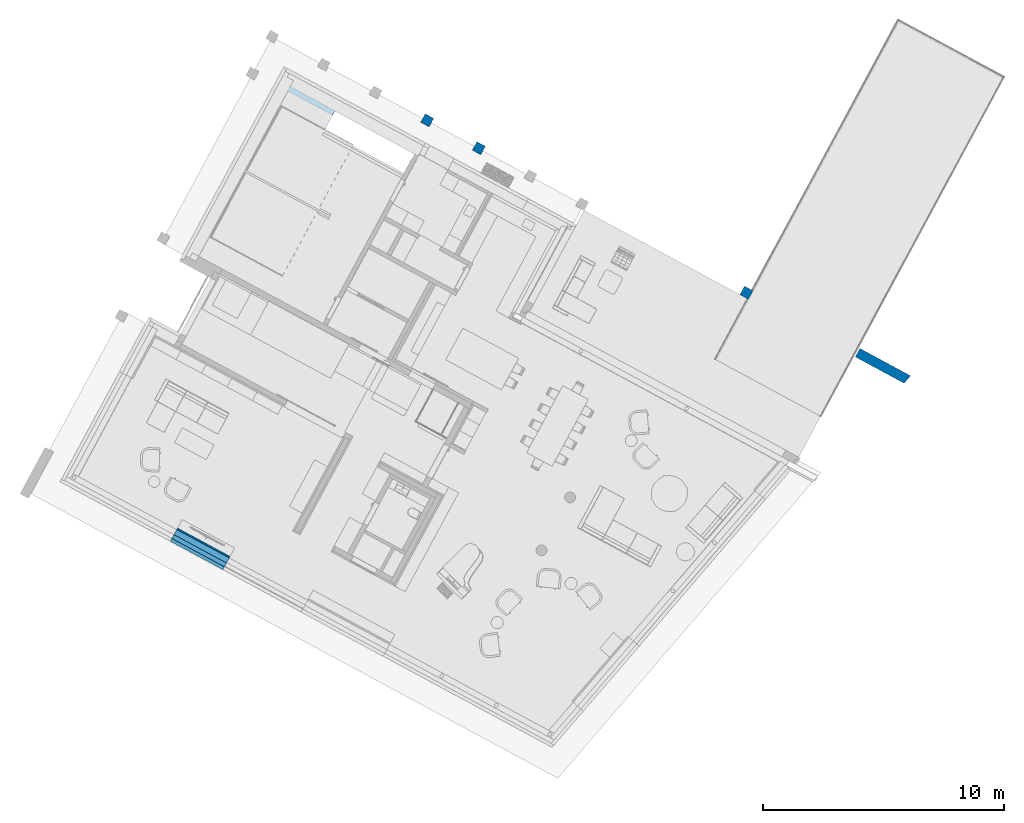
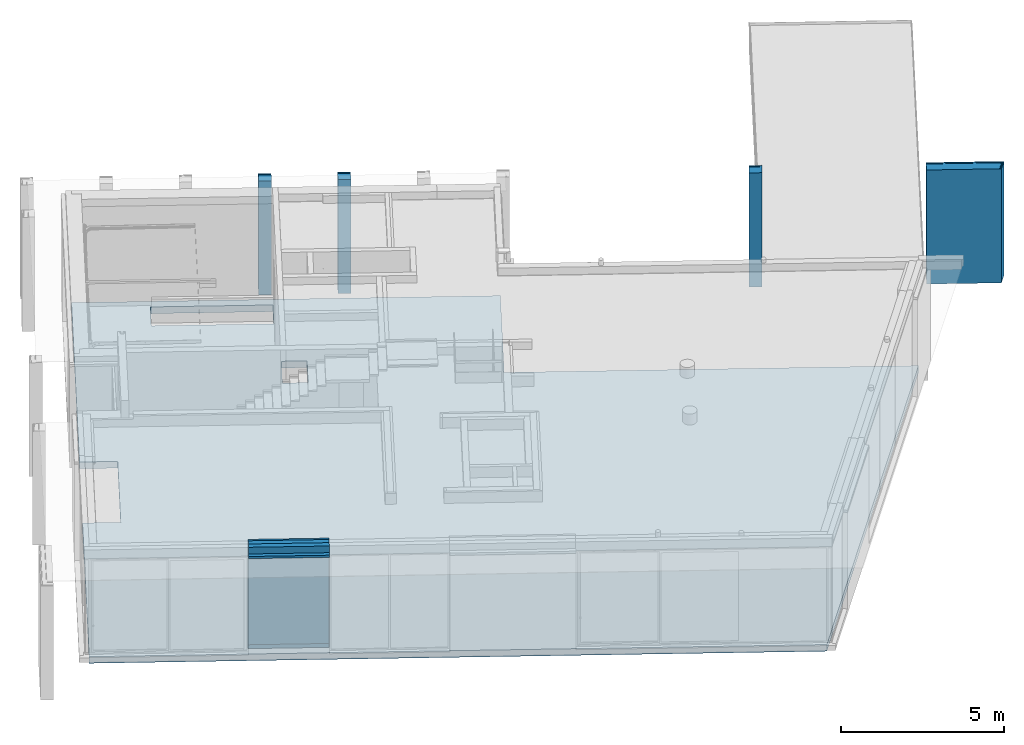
# One storey, part 2 of 52: 4 columns, 2 walls, 1 slab, 1 opening.
"""IFC2X3 building model written with IfcOpenShell, lengths in metres."""

from ifc_helpers import new_model, entity, si_unit, converted_unit, derived_unit, money_unit, direction, frame, origin_with_axes, place, context, subcontext, project, spatial, polyline, outline, extrude, faceted_brep, material, material_list, type_object, element, save


model = new_model("IFC2X3")

# Units and contexts
model_context = context("Model", 3, precision=1e-05, world=origin_with_axes(), true_north=direction((0.0, 1.0)))
body_context = subcontext(model_context, "Body", "Model", "MODEL_VIEW")
ifc_project = project(units=[si_unit("LENGTHUNIT", "METRE"), si_unit("AREAUNIT", "SQUARE_METRE"), si_unit("VOLUMEUNIT", "CUBIC_METRE"), converted_unit("PLANEANGLEUNIT", "DEGREE", entity("IfcPlaneAngleMeasure", 0.0174532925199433), si_unit("PLANEANGLEUNIT", "RADIAN"), dimensions=[0, 0, 0, 0, 0, 0, 0]), money_unit("EUR"), converted_unit("TIMEUNIT", "Year", entity("IfcTimeMeasure", 31556926.0), si_unit("TIMEUNIT", "SECOND"), dimensions=[0, 0, 1, 0, 0, 0, 0]), si_unit("MASSUNIT", "GRAM", prefix="KILO"), si_unit("THERMODYNAMICTEMPERATUREUNIT", "DEGREE_CELSIUS"), si_unit("LUMINOUSINTENSITYUNIT", "LUMEN"), si_unit("ENERGYUNIT", "JOULE", prefix="MEGA"), derived_unit("THERMALCONDUCTANCEUNIT", [(si_unit("POWERUNIT", "WATT"), 1), (si_unit("LENGTHUNIT", "METRE"), -1), (si_unit("THERMODYNAMICTEMPERATUREUNIT", "KELVIN"), -1)]), derived_unit("SPECIFICHEATCAPACITYUNIT", [(si_unit("ENERGYUNIT", "JOULE"), 1), (si_unit("MASSUNIT", "GRAM", prefix="KILO"), -1), (si_unit("THERMODYNAMICTEMPERATUREUNIT", "KELVIN"), -1)]), derived_unit("MASSDENSITYUNIT", [(si_unit("MASSUNIT", "GRAM", prefix="KILO"), 1), (si_unit("VOLUMEUNIT", "CUBIC_METRE"), -1)])], contexts=[model_context])

# Site, building, storey
site_placement = place(None, frame((-3.949935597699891, 1.740105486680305, 0.0), z_axis=(0.0, 0.0, 1.0), x_axis=(0.8799804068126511, -0.475009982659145, 0.0)))
site = spatial("IfcSite", under=ifc_project, at=site_placement, Name="Gelände", CompositionType="ELEMENT")
building_placement = place(site_placement, origin_with_axes())
building = spatial("IfcBuilding", under=site, at=building_placement, Name="Gebäude", CompositionType="ELEMENT")
storey_placement = place(building_placement, origin_with_axes())
storey = spatial("IfcBuildingStorey", under=building, at=storey_placement, Name="Erdgeschoss", CompositionType="ELEMENT", Elevation=0.0)

# Columns
ifc_material_1 = material(Name="_SIWH - Beton, Stahlbeton")
column_type_1 = type_object("IfcColumnType", Name="_SIWH - Beton, Stahlbeton 400 x 400", PredefinedType="NOTDEFINED")
column_1_placement = place(storey_placement, frame((10.15997864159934, 20.38528753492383, -0.699999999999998), z_axis=(0.0, 0.0, 1.0), x_axis=(1.0, 0.0, 0.0)))
element("IfcColumn", 1, at=column_1_placement, inside=storey, type_object=column_type_1, material=ifc_material_1, Name="Stütze-003", context=body_context, shape_type="Brep", body=[
    faceted_brep([(0.1999999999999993, 0.1449946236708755, 4.279999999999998), (0.1999999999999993, 0.1549946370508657, 4.279999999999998), (-0.1999999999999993, 0.1549946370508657, 4.279999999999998), (-0.1999999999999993, 0.1449946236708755, 4.279999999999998), (0.1999999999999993, 0.1899946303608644, 4.270000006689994), (0.1999999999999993, 0.1649946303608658, 4.270000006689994), (0.1999999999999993, 0.1349946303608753, 4.270000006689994), (0.1999999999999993, 0.009994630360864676, 4.270000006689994), (0.1999999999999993, -5.369639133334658e-06, 4.280000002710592), (0.1999999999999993, -0.1999999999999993, 4.279999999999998), (0.1999999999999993, -0.1999999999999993, 0.0), (0.1999999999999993, 0.1999999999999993, 0.0), (0.2000000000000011, 0.1999946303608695, 4.280000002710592), (-0.1999999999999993, 0.1649946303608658, 4.270000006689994), (-0.1999999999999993, 0.1899946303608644, 4.270000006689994), (-0.1999999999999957, 0.1999946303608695, 4.280000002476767), (-0.1999999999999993, 0.1999999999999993, 0.0), (-0.1999999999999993, -0.1999999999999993, 0.0), (-0.1999999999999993, -0.1999999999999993, 4.279999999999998), (-0.1999999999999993, -5.369639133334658e-06, 4.280000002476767), (-0.1999999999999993, 0.009994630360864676, 4.270000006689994), (-0.1999999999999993, 0.1349946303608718, 4.270000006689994)], [[[0, 1, 2, 3]], [[4, 5, 1, 0, 6, 7, 8, 9, 10, 11, 12]], [[2, 1, 5, 13]], [[13, 14, 15, 16, 17, 18, 19, 20, 21, 3, 2]], [[21, 6, 0, 3]], [[13, 5, 4, 14]], [[20, 7, 6, 21]], [[19, 8, 7, 20]], [[9, 8, 19, 18]], [[9, 18, 17, 10]], [[11, 10, 17, 16]], [[16, 15, 12, 11]], [[14, 4, 12, 15]]]),
])
column_2_placement = place(storey_placement, frame((25.24515309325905, 20.38528753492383, -0.699999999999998), z_axis=(0.0, 0.0, 1.0), x_axis=(1.0, 0.0, 0.0)))
element("IfcColumn", 2, at=column_2_placement, inside=storey, type_object=column_type_1, material=ifc_material_1, Name="Stütze-003", context=body_context, shape_type="Brep", body=[
    faceted_brep([(0.1999999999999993, 0.144994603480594, 4.279999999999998), (0.1999999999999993, 0.1549946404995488, 4.279999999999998), (-0.1999999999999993, 0.1549946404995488, 4.279999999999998), (-0.1999999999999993, 0.144994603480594, 4.279999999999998), (0.1999999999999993, 0.1899946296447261, 4.270000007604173), (0.1999999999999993, 0.1649946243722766, 4.270000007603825), (0.1999999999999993, 0.1349946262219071, 4.270000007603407), (0.1999999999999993, -0.1900053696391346, 4.270000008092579), (0.1999999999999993, -0.2000053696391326, 4.280000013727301), (0.1999999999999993, -0.1999999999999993, 0.0), (0.1999999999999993, 0.1999999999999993, 0.0), (0.1999999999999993, 0.1999946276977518, 4.280000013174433), (-0.1999999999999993, 0.1649946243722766, 4.27000000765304), (-0.1999999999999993, 0.1899946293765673, 4.270000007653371), (-0.1999999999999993, 0.1999946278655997, 4.280000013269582), (-0.1999999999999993, 0.1999999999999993, 0.0), (-0.1999999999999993, -0.1999999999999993, 0.0), (-0.1999999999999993, -0.2000053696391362, 4.280000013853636), (-0.1999999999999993, -0.1900053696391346, 4.270000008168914), (-0.1999999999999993, 0.1349946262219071, 4.270000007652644)], [[[0, 1, 2, 3]], [[4, 5, 1, 0, 6, 7, 8, 9, 10, 11]], [[2, 1, 5, 12]], [[12, 13, 14, 15, 16, 17, 18, 19, 3, 2]], [[19, 6, 0, 3]], [[12, 5, 4, 13]], [[18, 7, 6, 19]], [[17, 8, 7, 18]], [[9, 8, 17, 16]], [[10, 9, 16, 15]], [[15, 14, 11, 10]], [[13, 4, 11, 14]]]),
])
column_3_placement = place(storey_placement, frame((12.60081076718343, 20.38528753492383, -0.699999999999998), z_axis=(0.0, 0.0, 1.0), x_axis=(1.0, 0.0, 0.0)))
element("IfcColumn", 3, at=column_3_placement, inside=storey, type_object=column_type_1, material=ifc_material_1, Name="Stütze-003", context=body_context, shape_type="Brep", body=[
    faceted_brep([(0.1999999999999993, 0.1449946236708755, 4.279999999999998), (0.1999999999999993, 0.1549946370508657, 4.279999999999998), (-0.1999999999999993, 0.1549946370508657, 4.279999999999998), (-0.1999999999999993, 0.1449946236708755, 4.279999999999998), (0.1999999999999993, 0.1899946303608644, 4.270000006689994), (0.1999999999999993, 0.1649946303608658, 4.270000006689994), (0.1999999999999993, 0.1349946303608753, 4.270000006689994), (0.1999999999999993, 0.009994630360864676, 4.270000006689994), (0.1999999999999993, -5.369639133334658e-06, 4.280000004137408), (0.1999999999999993, -0.1999999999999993, 4.279999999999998), (0.1999999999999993, -0.1999999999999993, 0.0), (0.1999999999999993, 0.1999999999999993, 0.0), (0.2000000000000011, 0.1999946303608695, 4.280000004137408), (-0.1999999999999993, 0.1649946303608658, 4.270000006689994), (-0.1999999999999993, 0.1899946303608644, 4.270000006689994), (-0.1999999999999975, 0.1999946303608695, 4.280000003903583), (-0.1999999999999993, 0.1999999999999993, 0.0), (-0.1999999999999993, -0.1999999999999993, 0.0), (-0.1999999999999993, -0.1999999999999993, 4.279999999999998), (-0.1999999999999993, -5.369639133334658e-06, 4.280000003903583), (-0.1999999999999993, 0.009994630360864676, 4.270000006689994), (-0.1999999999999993, 0.1349946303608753, 4.270000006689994)], [[[0, 1, 2, 3]], [[4, 5, 1, 0, 6, 7, 8, 9, 10, 11, 12]], [[2, 1, 5, 13]], [[13, 14, 15, 16, 17, 18, 19, 20, 21, 3, 2]], [[21, 6, 0, 3]], [[13, 5, 4, 14]], [[20, 7, 6, 21]], [[19, 8, 7, 20]], [[9, 8, 19, 18]], [[9, 18, 17, 10]], [[11, 10, 17, 16]], [[16, 15, 12, 11]], [[14, 4, 12, 15]]]),
])
column_type_2 = type_object("IfcColumnType", Name="_SIWH - Außenstütze1 EG 2395 x 400", PredefinedType="NOTDEFINED")
column_4_placement = place(storey_placement, frame((30.49515309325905, 20.58528752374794, -0.699999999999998), z_axis=(0.0, 0.0, 1.0), x_axis=(1.0, 0.0, 0.0)))
element("IfcColumn", 4, at=column_4_placement, inside=storey, type_object=column_type_2, material=ifc_material_1, Name="Stütze-004", context=body_context, shape_type="Brep", body=[
    faceted_brep([(2.26157592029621, -0.4000000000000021, 4.279999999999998), (2.339109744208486, -0.04500535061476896, 4.280000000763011), (0.0, -0.04500534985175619, 4.279999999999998), (0.0, -0.0550053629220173, 4.279999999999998), (2.326689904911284, -0.05500536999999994, 4.279999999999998), (2.251339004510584, -0.4000053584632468, 4.280000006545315), (2.271811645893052, -0.4000000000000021, 4.270000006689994), (2.351529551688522, -0.03500536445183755, 4.270000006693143), (0.0, -0.03500536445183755, 4.270000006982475), (0.0, -0.01000535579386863, 4.270000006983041), (0.0, -5.363245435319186e-06, 4.28000001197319), (0.0, 0.0, 0.0), (0.0, -0.3999999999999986, 0.0), (0.0, -0.4000053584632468, 4.280000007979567), (0.0, -0.3900053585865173, 4.270000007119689), (0.0, -0.06500536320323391, 4.270000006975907), (2.314270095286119, -0.06500536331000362, 4.270000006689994), (2.241104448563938, -0.4000000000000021, 4.270000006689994), (2.243287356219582, -0.390005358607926, 4.270000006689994), (2.113157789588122, -0.4000000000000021, 4.270000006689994), (2.102920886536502, -0.4000053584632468, 4.280000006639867), (2.30763671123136, -0.4000000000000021, 0.0), (2.307636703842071, -0.399999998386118, 4.280000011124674), (2.297400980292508, -0.4000000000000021, 4.270000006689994), (2.377118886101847, -0.03500536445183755, 4.270000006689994), (2.382579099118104, -0.01000535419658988, 4.270000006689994), (2.39499890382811, -5.364250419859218e-06, 4.280000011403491), (2.394999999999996, 0.0, 0.0), (2.115340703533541, -0.3900053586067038, 4.270000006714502), (2.385170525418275, -0.04500535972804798, 4.280000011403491)], [[[0, 1, 2, 3, 4, 5]], [[6, 7, 1, 0]], [[2, 1, 7, 8]], [[8, 9, 10, 11, 12, 13, 14, 15, 3, 2]], [[16, 4, 3, 15]], [[17, 5, 4, 16, 18]], [[19, 20, 13, 12, 21, 22, 23, 6, 0, 5, 17]], [[23, 24, 25, 9, 8, 7, 6]], [[26, 10, 9, 25]], [[11, 10, 26, 27]], [[27, 21, 12, 11]], [[13, 20, 28, 14]], [[17, 18, 16, 15, 14, 28, 19]], [[19, 28, 20]], [[27, 26, 29, 22, 21]], [[22, 29, 26, 25, 24, 23]]]),
])

# Slab, opening
slab_type = type_object("IfcSlabType", Name="_SIWH - Beton, Stahlbeton 250", PredefinedType="NOTDEFINED")
slab_placement = place(storey_placement, frame((4.182485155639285, 0.2249914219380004, -0.1800000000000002), z_axis=(0.0, 0.0, 1.0), x_axis=(1.0, 0.0, 0.0)))
slab = element("IfcSlab", 5, at=slab_placement, inside=storey, type_object=slab_type, material=ifc_material_1, Name="Decke004", PredefinedType="NOTDEFINED", context=body_context, shape_type="Brep", body=[
    faceted_brep([(13.18500922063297, 14.85805468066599, -0.25), (25.92451140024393, 14.85805468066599, -0.25), (22.67938862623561, 0.0, -0.25), (0.0, 0.0, -0.25), (0.0, 7.168062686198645, -0.25), (1.175007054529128, 7.168066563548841, -0.25), (1.17499628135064, 10.43281183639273, -0.25), (3.203654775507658e-05, 10.43280795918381, -0.25), (4.668971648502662e-05, 18.97528599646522, -0.25), (13.18499074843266, 18.97528335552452, -0.25), (2.414916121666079, 17.66529189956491, -0.25), (6.179914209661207, 17.66529189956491, -0.25), (6.179914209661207, 18.67529423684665, -0.25), (2.414916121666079, 18.67529423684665, -0.25), (7.145250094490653, 15.64970379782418, -0.25), (6.354923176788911, 15.64970031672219, -0.25), (6.354928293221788, 14.48809843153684, -0.25), (7.14525235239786, 14.48810193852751, -0.25), (13.18500922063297, 14.85805468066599, 0.0), (25.92451140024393, 14.85805468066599, 0.0), (22.67938862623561, 0.0, 0.0), (0.0, 0.0, 0.0), (0.0, 7.168062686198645, 0.0), (1.175007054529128, 7.168066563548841, 0.0), (1.17499628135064, 10.43281183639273, 0.0), (3.203654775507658e-05, 10.43280795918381, 0.0), (4.668971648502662e-05, 18.97528599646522, 0.0), (13.18499074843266, 18.97528335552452, 0.0), (2.414916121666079, 17.66529189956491, 0.0), (6.179914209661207, 17.66529189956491, 0.0), (6.179914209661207, 18.67529423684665, 0.0), (2.414916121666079, 18.67529423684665, 0.0), (7.145250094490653, 15.64970379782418, 0.0), (6.354923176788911, 15.64970031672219, 0.0), (6.354928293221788, 14.48809843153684, 0.0), (7.14525235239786, 14.48810193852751, 0.0)], [[[0, 1, 2, 3, 4, 5, 6, 7, 8, 9], [10, 11, 12, 13], [14, 15, 16, 17]], [[0, 18, 19, 1]], [[1, 19, 20, 2]], [[2, 20, 21, 3]], [[3, 21, 22, 4]], [[4, 22, 23, 5]], [[5, 23, 24, 6]], [[6, 24, 25, 7]], [[7, 25, 26, 8]], [[8, 26, 27, 9]], [[9, 27, 18, 0]], [[10, 28, 29, 11]], [[11, 29, 30, 12]], [[12, 30, 31, 13]], [[13, 31, 28, 10]], [[15, 14, 32, 33]], [[16, 15, 33, 34]], [[17, 16, 34, 35]], [[14, 17, 35, 32]], [[24, 23, 22, 21, 20, 19, 18, 27, 26, 25], [30, 29, 28, 31], [32, 35, 34, 33]]]),
])
opening_placement = place(slab_placement, frame((-4.182485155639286, -0.2249914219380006, 0.1800000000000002), z_axis=(0.0, 0.0, 1.0), x_axis=(1.0, 0.0, 0.0)))
element("IfcOpeningElement", 6, at=opening_placement, cuts=slab, Name="BD-002", context=body_context, shape_type="SweptSolid", body=[
    extrude(outline(polyline([(-0.3951594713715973, -0.5808026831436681), (0.3951645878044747, -0.5807991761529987), (0.3951623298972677, 0.5808026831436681), (-0.3951645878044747, 0.5807992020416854), (-0.3951594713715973, -0.5808026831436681)])), frame((10.93257292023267, 15.29389253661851, -0.4300000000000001), z_axis=(0.0, 0.0, 1.0), x_axis=(1.0, 0.0, 0.0)), (0.0, 0.0, 1.0), 0.4999999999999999),
])

# Walls
ifc_material_2 = material(Name="_SIWH - Gipskarton")
ifc_material_3 = material(Name="_SIWH - Installationswand, raumhoch")
ifc_material_list_1 = material_list([ifc_material_2, ifc_material_2, ifc_material_3])
wall_type_1 = type_object("IfcWallType", Name="_SIWH - WI | Vorsatz-GK 2-lagig | 7,5cm  75", PredefinedType="NOTDEFINED")
wall_1_placement = place(storey_placement, frame((9.077481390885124, 0.4649921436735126, -0.1799999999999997), z_axis=(0.0, 0.0, 1.0), x_axis=(0.9999999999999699, -2.452875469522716e-07, 0.0)))
element("IfcWall", 7, at=wall_1_placement, inside=storey, type_object=wall_type_1, material=ifc_material_list_1, Name="L-Wand013", context=body_context, shape_type="Brep", body=[
    faceted_brep([(2.482507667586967, 0.06250000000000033, 4.080000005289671), (2.482507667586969, 0.0750000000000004, 4.080000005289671), (0.0, 0.07500000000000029, 4.080000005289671), (0.0, 0.06250000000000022, 4.080000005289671), (2.482507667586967, 0.06250000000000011, 0.0), (2.482507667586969, 0.07500000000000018, 0.0), (0.0, 0.07500000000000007, 0.0), (0.0, 0.0625, 0.0)], [[[0, 1, 2, 3]], [[0, 4, 5, 1]], [[1, 5, 6, 2]], [[3, 2, 6, 7]], [[4, 0, 3, 7]], [[5, 4, 7, 6]]]),
    faceted_brep([(2.482507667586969, 0.05000000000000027, 4.080000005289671), (2.482507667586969, 0.06250000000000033, 4.080000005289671), (0.0, 0.06250000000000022, 4.080000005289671), (0.0, 0.05000000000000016, 4.080000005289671), (2.482507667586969, 0.05000000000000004, 0.0), (2.482507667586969, 0.06250000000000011, 0.0), (0.0, 0.0625, 0.0), (0.0, 0.04999999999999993, 0.0)], [[[0, 1, 2, 3]], [[0, 4, 5, 1]], [[1, 5, 6, 2]], [[3, 2, 6, 7]], [[4, 0, 3, 7]], [[5, 4, 7, 6]]]),
    faceted_brep([(0.0, 0.05000000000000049, 3.780000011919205), (2.482507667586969, 0.05000000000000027, 3.780000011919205), (2.482507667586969, 0.05000000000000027, 0.1799999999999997), (0.0, 0.05000000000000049, 0.1799999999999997), (2.482507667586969, 0.0, 3.780000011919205), (0.0, 0.0, 3.780000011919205), (2.482507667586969, 0.0, 0.1799999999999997), (0.0, 0.0, 0.1799999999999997)], [[[0, 1, 2, 3]], [[4, 1, 0, 5]], [[1, 4, 6, 2]], [[3, 2, 6, 7]], [[5, 0, 3, 7]], [[4, 5, 7, 6]]]),
    faceted_brep([(2.482507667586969, 0.0, 3.795000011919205), (2.482507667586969, 0.05000000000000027, 3.795000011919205), (2.482507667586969, 0.05000000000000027, 4.080000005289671), (2.482507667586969, 0.0, 4.080000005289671), (0.0, 0.05000000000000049, 3.795000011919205), (0.0, 0.0, 3.795000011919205), (0.0, 0.05000000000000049, 4.080000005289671), (0.0, 0.0, 4.080000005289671)], [[[0, 1, 2, 3]], [[4, 1, 0, 5]], [[1, 4, 6, 2]], [[7, 3, 2, 6]], [[5, 0, 3, 7]], [[4, 5, 7, 6]]]),
])
ifc_material_4 = material(Name="_SIWH - Dämmung, weich Mineralwolle")
ifc_material_5 = material(Name="_SIWH - Luftschicht vertikal")
ifc_material_6 = material(Name="_SIWH - MW Vormauerziegel")
ifc_material_list_2 = material_list([ifc_material_1, ifc_material_4, ifc_material_5, ifc_material_6])
wall_type_2 = type_object("IfcWallType", Name="_SIWH - Sturz Außenwand EG 555 x 330", PredefinedType="NOTDEFINED")
wall_2_placement = place(storey_placement, frame((9.077481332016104, 0.2249921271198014, 3.620000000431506), z_axis=(0.0, 0.0, 1.0), x_axis=(0.9999999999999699, -2.452875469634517e-07, 0.0)))
element("IfcWall", 8, at=wall_2_placement, inside=storey, type_object=wall_type_2, material=ifc_material_list_2, Name="A-Wand009", context=body_context, shape_type="Brep", body=[
    faceted_brep([(0.0, 0.2400000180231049, 0.2800000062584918), (2.482507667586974, 0.2400000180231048, 0.2800000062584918), (2.482507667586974, 0.2400000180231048, 0.0), (0.0, 0.2400000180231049, 0.0), (2.482507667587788, -3.330703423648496e-06, 0.2800000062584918), (0.0, -3.939631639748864e-06, 0.2800000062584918), (2.482507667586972, 0.0, 0.0), (0.0, 0.0, 0.0)], [[[0, 1, 2, 3]], [[4, 1, 0, 5]], [[1, 4, 6, 2]], [[3, 2, 6, 7]], [[5, 0, 3, 7]], [[4, 5, 7, 6]]]),
    faceted_brep([(0.0, -0.18, 0.3300000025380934), (2.482507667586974, -0.1799999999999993, 0.3300000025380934), (2.482507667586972, -3.224473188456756e-10, 0.3300000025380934), (0.0, -3.224471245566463e-10, 0.3300000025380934), (0.0, -0.1800000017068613, 0.08000000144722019), (2.482507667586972, -0.1800000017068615, 0.08000000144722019), (2.482507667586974, -0.1799999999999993, 0.0), (2.482507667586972, -3.224473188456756e-10, 0.0), (0.0, -3.224471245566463e-10, 0.0), (0.0, -0.18, 0.0)], [[[0, 1, 2, 3]], [[4, 5, 1, 0]], [[2, 1, 5, 6, 7]], [[3, 2, 7, 8]], [[4, 0, 3, 8, 9]], [[9, 6, 5, 4]], [[8, 7, 6, 9]]]),
    faceted_brep([(2.482507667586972, -0.1800000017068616, 0.0), (2.482507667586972, -0.2000000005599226, 0.0), (0.0, -0.2000000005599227, 0.0), (0.0, -0.1800000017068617, 0.0), (2.482507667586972, -0.1800000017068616, 0.08000000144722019), (2.482507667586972, -0.2000000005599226, 0.07999999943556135), (0.0, -0.2000000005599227, 0.07999999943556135), (0.0, -0.1800000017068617, 0.08000000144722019)], [[[0, 1, 2, 3]], [[0, 4, 5, 1]], [[1, 5, 6, 2]], [[3, 2, 6, 7]], [[4, 0, 3, 7]], [[5, 4, 7, 6]]]),
    faceted_brep([(2.482507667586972, -0.1999999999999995, 0.08000000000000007), (2.482507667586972, -0.1999999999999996, 0.0), (0.0, -0.1999999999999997, 0.0), (0.0, -0.1999999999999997, 0.08000000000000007), (2.482507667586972, -0.3149999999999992, 0.08000000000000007), (2.482507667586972, -0.3149999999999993, 0.0), (0.0, -0.3149999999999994, 0.0), (0.0, -0.3149999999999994, 0.08000000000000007)], [[[0, 1, 2, 3]], [[0, 4, 5, 1]], [[1, 5, 6, 2]], [[3, 2, 6, 7]], [[4, 0, 3, 7]], [[5, 4, 7, 6]]]),
])

save(model, "model.ifc")
